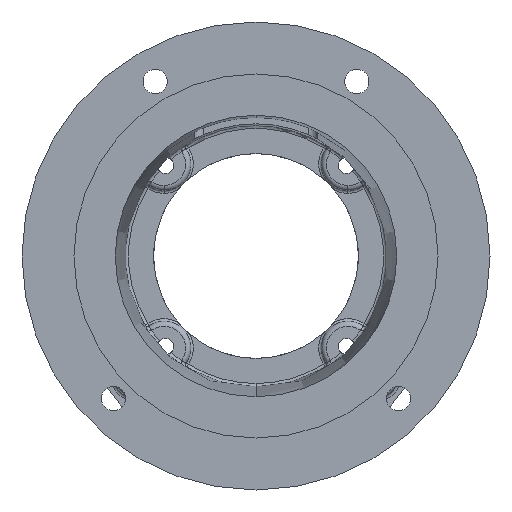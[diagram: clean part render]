
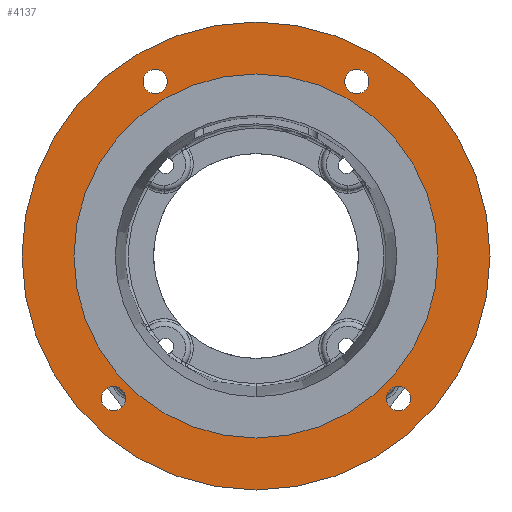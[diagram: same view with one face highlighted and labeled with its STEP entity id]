
A CAD part, front view. The second image highlights one B-rep face of the part: STEP entity #4137.
In plain terms, the highlighted planar face has unit normal (0, -1, 0).
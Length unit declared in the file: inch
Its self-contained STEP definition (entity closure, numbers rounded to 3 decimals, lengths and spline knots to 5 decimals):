
#17 = CARTESIAN_POINT ( 'NONE',  ( -1.9375, 0., 3.35585 ) ) ;
#159 = ORIENTED_EDGE ( 'NONE', *, *, #9858, .F. ) ;
#280 = DIRECTION ( 'NONE',  ( 0., 0., -1. ) ) ;
#456 = CARTESIAN_POINT ( 'NONE',  ( -1.9375, 0., 3.59022 ) ) ;
#465 = CIRCLE ( 'NONE', #9630, 3.501 ) ;
#479 = CIRCLE ( 'NONE', #1901, 0.23438 ) ;
#513 = VERTEX_POINT ( 'NONE', #9718 ) ;
#543 = EDGE_CURVE ( 'NONE', #5710, #11642, #6579, .T. ) ;
#573 = CARTESIAN_POINT ( 'NONE',  ( 0., 0., 4.5 ) ) ;
#621 = AXIS2_PLACEMENT_3D ( 'NONE', #17, #6309, #989 ) ;
#929 = CIRCLE ( 'NONE', #6397, 0.23438 ) ;
#964 = CARTESIAN_POINT ( 'NONE',  ( -2.74004, 0., -2.50566 ) ) ;
#986 = VERTEX_POINT ( 'NONE', #8855 ) ;
#989 = DIRECTION ( 'NONE',  ( 0., 0., -1. ) ) ;
#1402 = CARTESIAN_POINT ( 'NONE',  ( 2.74004, 0., -2.50566 ) ) ;
#1901 = AXIS2_PLACEMENT_3D ( 'NONE', #9740, #4395, #10666 ) ;
#1924 = VERTEX_POINT ( 'NONE', #964 ) ;
#1942 = DIRECTION ( 'NONE',  ( 0., -1., 0. ) ) ;
#2039 = CARTESIAN_POINT ( 'NONE',  ( -1.9375, 0., 3.35585 ) ) ;
#2065 = DIRECTION ( 'NONE',  ( 0., 0., -1. ) ) ;
#2116 = ORIENTED_EDGE ( 'NONE', *, *, #10594, .F. ) ;
#2211 = VERTEX_POINT ( 'NONE', #10088 ) ;
#2220 = DIRECTION ( 'NONE',  ( 0., -1., 0. ) ) ;
#2247 = ORIENTED_EDGE ( 'NONE', *, *, #543, .F. ) ;
#2256 = CARTESIAN_POINT ( 'NONE',  ( 1.9375, 0., 3.35585 ) ) ;
#2288 = DIRECTION ( 'NONE',  ( 0., 0., -1. ) ) ;
#2356 = DIRECTION ( 'NONE',  ( 0., -1., 0. ) ) ;
#2504 = CARTESIAN_POINT ( 'NONE',  ( -2.74004, 0., -2.74004 ) ) ;
#2622 = VERTEX_POINT ( 'NONE', #5370 ) ;
#2624 = EDGE_LOOP ( 'NONE', ( #2247, #159 ) ) ;
#2910 = DIRECTION ( 'NONE',  ( 0., -1., 0. ) ) ;
#3098 = CARTESIAN_POINT ( 'NONE',  ( 0., 0., 0. ) ) ;
#3203 = EDGE_LOOP ( 'NONE', ( #2116, #3349 ) ) ;
#3326 = FACE_OUTER_BOUND ( 'NONE', #7205, .T. ) ;
#3349 = ORIENTED_EDGE ( 'NONE', *, *, #8354, .F. ) ;
#3357 = AXIS2_PLACEMENT_3D ( 'NONE', #9267, #3943, #10201 ) ;
#3446 = ORIENTED_EDGE ( 'NONE', *, *, #7321, .F. ) ;
#3739 = DIRECTION ( 'NONE',  ( 0., 0., -1. ) ) ;
#3760 = ORIENTED_EDGE ( 'NONE', *, *, #4361, .F. ) ;
#3943 = DIRECTION ( 'NONE',  ( 0., -1., 0. ) ) ;
#3991 = DIRECTION ( 'NONE',  ( 0., 0., -1. ) ) ;
#3998 = CIRCLE ( 'NONE', #3357, 0.23438 ) ;
#4137 = ADVANCED_FACE ( 'NONE', ( #10734, #5945, #10460, #8032, #5659, #3326 ), #7407, .F. ) ;
#4152 = EDGE_CURVE ( 'NONE', #10883, #9174, #929, .T. ) ;
#4261 = CARTESIAN_POINT ( 'NONE',  ( 2.74004, 0., -2.74004 ) ) ;
#4361 = EDGE_CURVE ( 'NONE', #2622, #1924, #8727, .T. ) ;
#4395 = DIRECTION ( 'NONE',  ( 0., -1., 0. ) ) ;
#4418 = EDGE_CURVE ( 'NONE', #2211, #7786, #10858, .T. ) ;
#4584 = DIRECTION ( 'NONE',  ( 0., -1., 0. ) ) ;
#4617 = CARTESIAN_POINT ( 'NONE',  ( 0., 0., 0. ) ) ;
#5081 = ORIENTED_EDGE ( 'NONE', *, *, #8403, .F. ) ;
#5151 = DIRECTION ( 'NONE',  ( 0., 0., -1. ) ) ;
#5262 = CARTESIAN_POINT ( 'NONE',  ( 0., 0., -3.501 ) ) ;
#5339 = CIRCLE ( 'NONE', #621, 0.23438 ) ;
#5370 = CARTESIAN_POINT ( 'NONE',  ( -2.74004, 0., -2.97441 ) ) ;
#5401 = CARTESIAN_POINT ( 'NONE',  ( 0., 0., 0. ) ) ;
#5403 = CARTESIAN_POINT ( 'NONE',  ( -1.9375, 0., 3.12147 ) ) ;
#5589 = AXIS2_PLACEMENT_3D ( 'NONE', #2504, #2356, #2065 ) ;
#5651 = DIRECTION ( 'NONE',  ( 0., -1., 0. ) ) ;
#5659 = FACE_BOUND ( 'NONE', #3203, .T. ) ;
#5662 = DIRECTION ( 'NONE',  ( 0., 0., 1. ) ) ;
#5706 = DIRECTION ( 'NONE',  ( 0., 1., 0. ) ) ;
#5710 = VERTEX_POINT ( 'NONE', #6282 ) ;
#5828 = AXIS2_PLACEMENT_3D ( 'NONE', #8227, #5706, #5662 ) ;
#5945 = FACE_BOUND ( 'NONE', #2624, .T. ) ;
#5952 = ORIENTED_EDGE ( 'NONE', *, *, #9911, .T. ) ;
#6004 = CARTESIAN_POINT ( 'NONE',  ( 1.9375, 0., 3.59022 ) ) ;
#6277 = DIRECTION ( 'NONE',  ( 0., 0., -1. ) ) ;
#6282 = CARTESIAN_POINT ( 'NONE',  ( 1.9375, 0., 3.12147 ) ) ;
#6309 = DIRECTION ( 'NONE',  ( 0., -1., 0. ) ) ;
#6397 = AXIS2_PLACEMENT_3D ( 'NONE', #2039, #2910, #11178 ) ;
#6579 = CIRCLE ( 'NONE', #10821, 0.23438 ) ;
#6745 = CIRCLE ( 'NONE', #8491, 0.23438 ) ;
#7205 = EDGE_LOOP ( 'NONE', ( #10325, #5952 ) ) ;
#7278 = CARTESIAN_POINT ( 'NONE',  ( 1.9375, 0., 3.35585 ) ) ;
#7321 = EDGE_CURVE ( 'NONE', #513, #10619, #9688, .T. ) ;
#7407 = PLANE ( 'NONE',  #5828 ) ;
#7786 = VERTEX_POINT ( 'NONE', #573 ) ;
#7985 = AXIS2_PLACEMENT_3D ( 'NONE', #4617, #4584, #3739 ) ;
#8032 = FACE_BOUND ( 'NONE', #11441, .T. ) ;
#8170 = DIRECTION ( 'NONE',  ( 0., 0., -1. ) ) ;
#8227 = CARTESIAN_POINT ( 'NONE',  ( -4.5, 0., 0. ) ) ;
#8354 = EDGE_CURVE ( 'NONE', #986, #9042, #10104, .T. ) ;
#8403 = EDGE_CURVE ( 'NONE', #9174, #10883, #5339, .T. ) ;
#8491 = AXIS2_PLACEMENT_3D ( 'NONE', #7278, #1942, #8170 ) ;
#8727 = CIRCLE ( 'NONE', #5589, 0.23438 ) ;
#8855 = CARTESIAN_POINT ( 'NONE',  ( 0., 0., 3.501 ) ) ;
#8920 = AXIS2_PLACEMENT_3D ( 'NONE', #4261, #10537, #5151 ) ;
#9042 = VERTEX_POINT ( 'NONE', #5262 ) ;
#9174 = VERTEX_POINT ( 'NONE', #456 ) ;
#9267 = CARTESIAN_POINT ( 'NONE',  ( 2.74004, 0., -2.74004 ) ) ;
#9320 = DIRECTION ( 'NONE',  ( 0., -1., 0. ) ) ;
#9449 = ORIENTED_EDGE ( 'NONE', *, *, #9694, .F. ) ;
#9468 = EDGE_CURVE ( 'NONE', #10619, #513, #3998, .T. ) ;
#9630 = AXIS2_PLACEMENT_3D ( 'NONE', #3098, #9320, #3991 ) ;
#9688 = CIRCLE ( 'NONE', #8920, 0.23438 ) ;
#9694 = EDGE_CURVE ( 'NONE', #1924, #2622, #479, .T. ) ;
#9702 = AXIS2_PLACEMENT_3D ( 'NONE', #11040, #5651, #280 ) ;
#9718 = CARTESIAN_POINT ( 'NONE',  ( 2.74004, 0., -2.97441 ) ) ;
#9740 = CARTESIAN_POINT ( 'NONE',  ( -2.74004, 0., -2.74004 ) ) ;
#9849 = AXIS2_PLACEMENT_3D ( 'NONE', #5401, #11670, #6277 ) ;
#9858 = EDGE_CURVE ( 'NONE', #11642, #5710, #6745, .T. ) ;
#9892 = EDGE_LOOP ( 'NONE', ( #10054, #5081 ) ) ;
#9911 = EDGE_CURVE ( 'NONE', #7786, #2211, #10976, .T. ) ;
#10054 = ORIENTED_EDGE ( 'NONE', *, *, #4152, .F. ) ;
#10088 = CARTESIAN_POINT ( 'NONE',  ( 0., 0., -4.5 ) ) ;
#10104 = CIRCLE ( 'NONE', #9849, 3.501 ) ;
#10201 = DIRECTION ( 'NONE',  ( 0., 0., -1. ) ) ;
#10325 = ORIENTED_EDGE ( 'NONE', *, *, #4418, .T. ) ;
#10460 = FACE_BOUND ( 'NONE', #11184, .T. ) ;
#10537 = DIRECTION ( 'NONE',  ( 0., -1., 0. ) ) ;
#10594 = EDGE_CURVE ( 'NONE', #9042, #986, #465, .T. ) ;
#10617 = ORIENTED_EDGE ( 'NONE', *, *, #9468, .F. ) ;
#10619 = VERTEX_POINT ( 'NONE', #1402 ) ;
#10666 = DIRECTION ( 'NONE',  ( 0., 0., -1. ) ) ;
#10734 = FACE_BOUND ( 'NONE', #9892, .T. ) ;
#10821 = AXIS2_PLACEMENT_3D ( 'NONE', #2256, #2220, #2288 ) ;
#10858 = CIRCLE ( 'NONE', #7985, 4.5 ) ;
#10883 = VERTEX_POINT ( 'NONE', #5403 ) ;
#10976 = CIRCLE ( 'NONE', #9702, 4.5 ) ;
#11040 = CARTESIAN_POINT ( 'NONE',  ( 0., 0., 0. ) ) ;
#11178 = DIRECTION ( 'NONE',  ( 0., 0., -1. ) ) ;
#11184 = EDGE_LOOP ( 'NONE', ( #3446, #10617 ) ) ;
#11441 = EDGE_LOOP ( 'NONE', ( #3760, #9449 ) ) ;
#11642 = VERTEX_POINT ( 'NONE', #6004 ) ;
#11670 = DIRECTION ( 'NONE',  ( 0., -1., 0. ) ) ;
